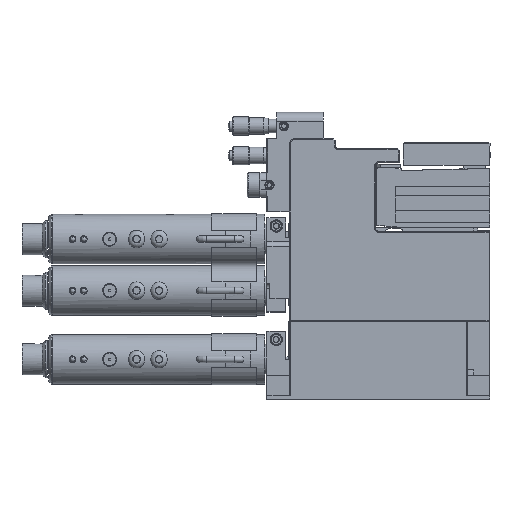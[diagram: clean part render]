
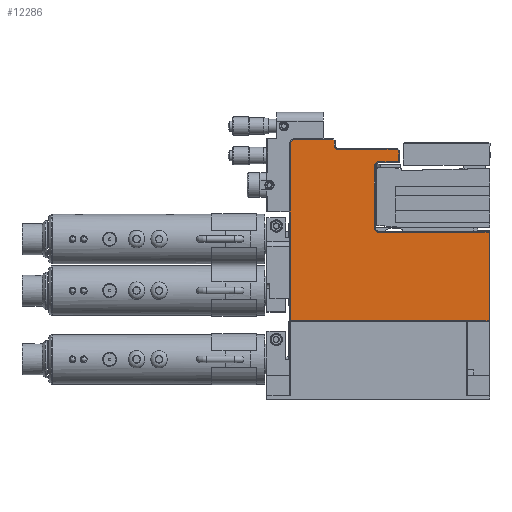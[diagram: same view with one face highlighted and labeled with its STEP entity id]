
A CAD part, top view. The second image highlights one B-rep face of the part: STEP entity #12286.
In plain terms, the highlighted planar face has unit normal (0, 0, 1).
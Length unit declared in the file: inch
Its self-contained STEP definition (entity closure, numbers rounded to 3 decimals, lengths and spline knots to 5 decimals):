
#4070=EDGE_CURVE('P5A-BBBMM-HN-SI[2]',#13008,#13009,#13010,.T.);
#5024=EDGE_CURVE('P5A-BBBMM-HN-SI[2]',#14160,#14513,#14514,.T.);
#5055=EDGE_CURVE('P5A-BBBMM-HN-SI[2]',#14557,#14558,#14559,.T.);
#5125=EDGE_CURVE('P5A-BBBMM-HN-SI[2]',#14671,#14558,#14672,.T.);
#5718=EDGE_CURVE('P5A-BBBMM-HN-SI[2]',#15524,#15525,#15526,.T.);
#5827=EDGE_CURVE('P5A-BBBMM-HN-SI[2]',#15681,#15682,#15683,.F.);
#6258=EDGE_CURVE('P5A-BBBMM-HN-SI[2]',#14528,#16315,#16316,.T.);
#6444=EDGE_CURVE('P5A-BBBMM-HN-SI[2]',#13009,#14557,#16578,.T.);
#7557=EDGE_CURVE('P5A-BBBMM-HN-SI[2]',#14513,#13157,#18116,.T.);
#7620=EDGE_CURVE('P5A-BBBMM-HN-SI[2]',#15525,#14160,#18209,.T.);
#9687=EDGE_CURVE('P5A-BBBMM-HN-SI[2]',#19294,#17768,#20830,.T.);
#10885=EDGE_CURVE('P5A-BBBMM-HN-SI[2]',#17768,#13008,#22313,.T.);
#11119=EDGE_CURVE('P5A-BBBMM-HN-SI[2]',#15682,#15524,#22603,.T.);
#12056=EDGE_CURVE('P5A-BBBMM-HN-SI[2]',#13157,#14528,#23729,.T.);
#12128=EDGE_CURVE('P5A-BBBMM-HN-SI[2]',#14671,#15681,#23814,.T.);
#12286=ADVANCED_FACE('P5A-BBBMM-HN-SI[2]',(#24000),#24001,.T.);
#12326=EDGE_CURVE('P5A-BBBMM-HN-SI[2]',#16315,#19294,#24048,.T.);
#13008=VERTEX_POINT('',#25194);
#13009=VERTEX_POINT('',#25195);
#13010=CIRCLE('',#25196,0.085);
#13157=VERTEX_POINT('',#25471);
#14160=VERTEX_POINT('',#27074);
#14513=VERTEX_POINT('',#27711);
#14514=CIRCLE('',#27712,0.085);
#14528=VERTEX_POINT('',#27730);
#14557=VERTEX_POINT('',#27772);
#14558=VERTEX_POINT('',#27773);
#14559=LINE('',#27774,#27775);
#14671=VERTEX_POINT('',#27942);
#14672=LINE('',#27943,#27944);
#15524=VERTEX_POINT('',#29362);
#15525=VERTEX_POINT('',#29363);
#15526=LINE('',#29364,#29365);
#15681=VERTEX_POINT('',#29666);
#15682=VERTEX_POINT('',#29667);
#15683=CIRCLE('',#29668,0.11);
#16315=VERTEX_POINT('',#30586);
#16316=LINE('',#30587,#30588);
#16578=LINE('',#31125,#31126);
#17768=VERTEX_POINT('',#33239);
#18116=LINE('',#33776,#33777);
#18209=LINE('',#34324,#34325);
#19294=VERTEX_POINT('',#36689);
#20830=CIRCLE('',#39614,0.085);
#22313=LINE('',#42816,#42817);
#22603=LINE('',#43308,#43309);
#23729=LINE('',#45950,#45951);
#23814=LINE('',#46125,#46126);
#24000=FACE_OUTER_BOUND('',#46504,.T.);
#24001=PLANE('',#46505);
#24048=LINE('',#46586,#46587);
#25194=CARTESIAN_POINT('',(-3.33,-2.235,0.875));
#25195=CARTESIAN_POINT('',(-3.245,-2.32,0.875));
#25196=AXIS2_PLACEMENT_3D('',#48356,#48357,#48358);
#25471=CARTESIAN_POINT('',(-2.87328,-0.645,0.875));
#27074=CARTESIAN_POINT('',(-4.145,-0.56,0.875));
#27711=CARTESIAN_POINT('',(-4.06,-0.645,0.875));
#27712=AXIS2_PLACEMENT_3D('',#49782,#49783,#49784);
#27730=CARTESIAN_POINT('',(-2.845,-0.67328,0.875));
#27772=CARTESIAN_POINT('',(-1.02,-2.32,0.875));
#27773=CARTESIAN_POINT('',(-1.02,-4.1,0.875));
#27774=CARTESIAN_POINT('',(-1.02,-3.485,0.875));
#27775=VECTOR('',#49843,1.0);
#27942=CARTESIAN_POINT('',(-5.03,-4.1,0.875));
#27943=CARTESIAN_POINT('',(-3.025,-4.1,0.875));
#27944=VECTOR('',#49976,1.0);
#29362=CARTESIAN_POINT('',(-4.17328,-0.44,0.875));
#29363=CARTESIAN_POINT('',(-4.145,-0.46828,0.875));
#29364=CARTESIAN_POINT('',(-3.23914,-1.37414,0.875));
#29365=VECTOR('',#50896,1.0);
#29666=CARTESIAN_POINT('',(-5.03,-0.55,0.875));
#29667=CARTESIAN_POINT('',(-4.92,-0.44,0.875));
#29668=AXIS2_PLACEMENT_3D('',#51025,#51026,#51027);
#30586=CARTESIAN_POINT('',(-2.845,-0.895,0.875));
#30587=CARTESIAN_POINT('',(-2.845,-1.875,0.875));
#30588=VECTOR('',#51715,1.0);
#31125=CARTESIAN_POINT('',(-2.07125,-2.32,0.875));
#31126=VECTOR('',#51971,1.0);
#33239=CARTESIAN_POINT('',(-3.33,-0.98,0.875));
#33776=CARTESIAN_POINT('',(-3.225,-0.645,0.875));
#33777=VECTOR('',#53607,1.0);
#34324=CARTESIAN_POINT('',(-4.145,-1.74875,0.875));
#34325=VECTOR('',#53712,1.0);
#36689=CARTESIAN_POINT('',(-3.245,-0.895,0.875));
#39614=AXIS2_PLACEMENT_3D('',#56815,#56816,#56817);
#42816=CARTESIAN_POINT('',(-3.33,-2.29125,0.875));
#42817=VECTOR('',#58708,1.0);
#43308=CARTESIAN_POINT('',(-3.025,-0.44,0.875));
#43309=VECTOR('',#59068,1.0);
#45950=CARTESIAN_POINT('',(-2.31539,-1.20289,0.875));
#45951=VECTOR('',#60495,1.0);
#46125=CARTESIAN_POINT('',(-5.03,-1.73232,0.875));
#46126=VECTOR('',#60609,1.0);
#46504=EDGE_LOOP('',(#60843,#60844,#60845,#60846,#60847,#60848,#60849,#60850,#60851,#60852,#60853,#60854,#60855,#60856,#60857,#60858));
#46505=AXIS2_PLACEMENT_3D('',#60859,#60860,#60861);
#46586=CARTESIAN_POINT('',(-3.02375,-0.895,0.875));
#46587=VECTOR('',#60903,1.0);
#48356=CARTESIAN_POINT('',(-3.245,-2.235,0.875));
#48357=DIRECTION('',(0.0,0.0,1.0));
#48358=DIRECTION('',(-0.707,-0.707,0.0));
#49782=CARTESIAN_POINT('',(-4.06,-0.56,0.875));
#49783=DIRECTION('',(0.0,0.0,1.0));
#49784=DIRECTION('',(-0.707,-0.707,0.0));
#49843=DIRECTION('',(0.0,-1.0,-0.0));
#49976=DIRECTION('',(1.0,0.0,0.0));
#50896=DIRECTION('',(0.707,-0.707,0.0));
#51025=CARTESIAN_POINT('',(-4.92,-0.55,0.875));
#51026=DIRECTION('',(0.0,0.0,1.0));
#51027=DIRECTION('',(-0.707,0.707,0.0));
#51715=DIRECTION('',(0.0,-1.0,0.0));
#51971=DIRECTION('',(1.0,0.0,0.0));
#53607=DIRECTION('',(1.0,0.0,0.0));
#53712=DIRECTION('',(0.0,-1.0,-0.0));
#56815=CARTESIAN_POINT('',(-3.245,-0.98,0.875));
#56816=DIRECTION('',(0.0,0.0,1.0));
#56817=DIRECTION('',(-0.707,0.707,0.0));
#58708=DIRECTION('',(0.0,-1.0,0.0));
#59068=DIRECTION('',(1.0,0.0,0.0));
#60495=DIRECTION('',(0.707,-0.707,0.0));
#60609=DIRECTION('',(0.0,1.0,0.0));
#60843=ORIENTED_EDGE('',*,*,#11119,.F.);
#60844=ORIENTED_EDGE('',*,*,#5827,.F.);
#60845=ORIENTED_EDGE('',*,*,#12128,.F.);
#60846=ORIENTED_EDGE('',*,*,#5125,.T.);
#60847=ORIENTED_EDGE('',*,*,#5055,.F.);
#60848=ORIENTED_EDGE('',*,*,#6444,.F.);
#60849=ORIENTED_EDGE('',*,*,#4070,.F.);
#60850=ORIENTED_EDGE('',*,*,#10885,.F.);
#60851=ORIENTED_EDGE('',*,*,#9687,.F.);
#60852=ORIENTED_EDGE('',*,*,#12326,.F.);
#60853=ORIENTED_EDGE('',*,*,#6258,.F.);
#60854=ORIENTED_EDGE('',*,*,#12056,.F.);
#60855=ORIENTED_EDGE('',*,*,#7557,.F.);
#60856=ORIENTED_EDGE('',*,*,#5024,.F.);
#60857=ORIENTED_EDGE('',*,*,#7620,.F.);
#60858=ORIENTED_EDGE('',*,*,#5718,.F.);
#60859=CARTESIAN_POINT('',(-3.025,-3.0,0.875));
#60860=DIRECTION('',(0.0,0.0,1.0));
#60861=DIRECTION('',(0.0,-1.0,0.0));
#60903=DIRECTION('',(-1.0,0.0,0.0));
